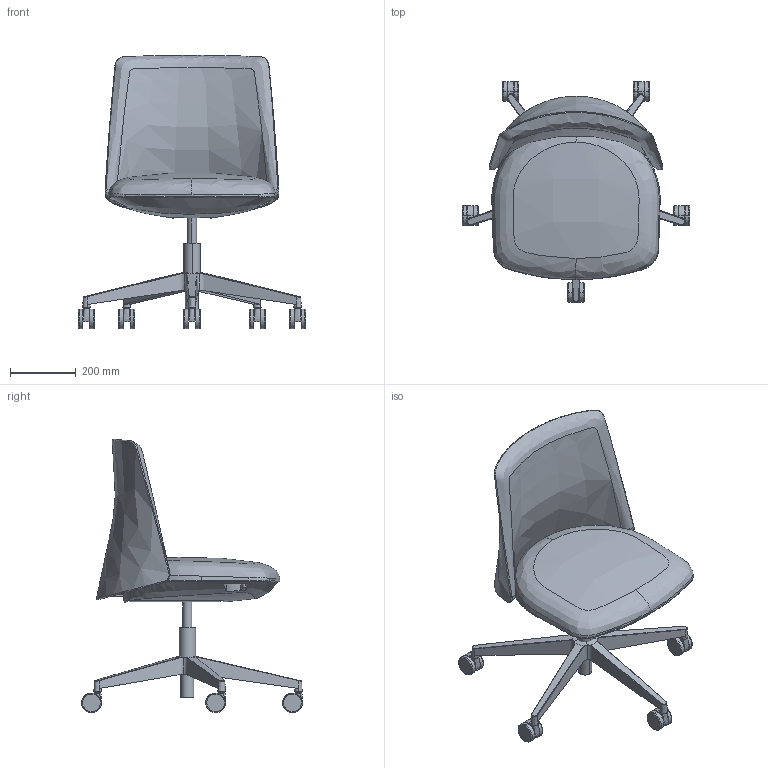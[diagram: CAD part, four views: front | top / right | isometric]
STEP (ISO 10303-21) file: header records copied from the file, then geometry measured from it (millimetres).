
FILE_DESCRIPTION(/* description */ (''),/* implementation_level */ '2;1');
FILE_NAME(/* name */ 'MELODY~3',/* time_stamp */ '2016-11-30T15:42:15+01:00',/* author */ (''),/* organization */ (''),/* preprocessor_version */ 'ST-DEVELOPER v15',/* originating_system */ '',/* authorisation */ '');
FILE_SCHEMA (('CONFIG_CONTROL_DESIGN'));
Length unit declared in the file: millimetre
Products named in the file (1): Document
Bounding box: 694.82 x 673.73 x 834.45 mm (x, y, z)
Volume: 27780423.4 mm3; surface area: 1795560.5 mm2
Topology: 4 solids, 27 shells, 259 faces, 637 edges, 384 vertices
Faces by surface type: bspline 185, plane 74
Entity records: 18026 total; most frequent: CARTESIAN_POINT 14319, ORIENTED_EDGE 1129, EDGE_CURVE 619, VERTEX_POINT 378, B_SPLINE_CURVE_WITH_KNOTS 346, EDGE_LOOP 261, ADVANCED_FACE 259, FACE_OUTER_BOUND 259
